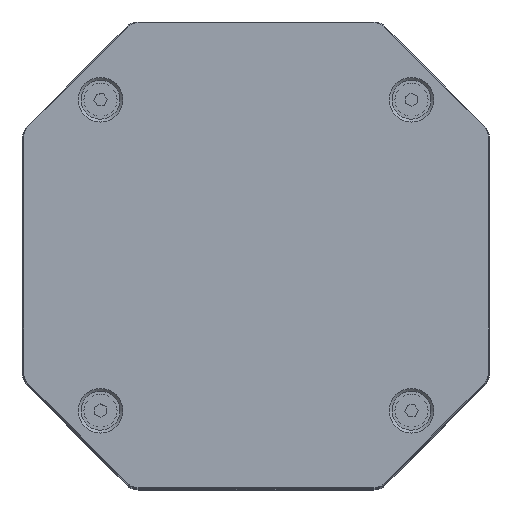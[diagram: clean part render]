
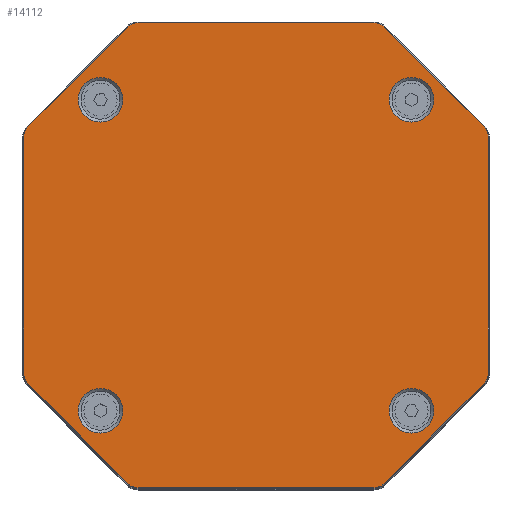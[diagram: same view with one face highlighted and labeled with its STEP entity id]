
A CAD part, top view. The second image highlights one B-rep face of the part: STEP entity #14112.
In plain terms, the highlighted planar face has unit normal (0, 0, 1) as drawn and (0, 1, 0) by its records, which use the part's own axes.
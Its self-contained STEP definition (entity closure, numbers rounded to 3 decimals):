
#860=FACE_BOUND('',#2431,.T.);
#861=FACE_BOUND('',#2432,.T.);
#862=FACE_BOUND('',#2433,.T.);
#863=FACE_BOUND('',#2434,.T.);
#1585=FACE_OUTER_BOUND('',#2430,.T.);
#2430=EDGE_LOOP('',(#12964,#12965,#12966,#12967,#12968,#12969,#12970,#12971,
#12972,#12973,#12974,#12975,#12976,#12977,#12978,#12979));
#2431=EDGE_LOOP('',(#12980));
#2432=EDGE_LOOP('',(#12981));
#2433=EDGE_LOOP('',(#12982));
#2434=EDGE_LOOP('',(#12983));
#3582=LINE('',#25571,#4769);
#3587=LINE('',#25584,#4774);
#3590=LINE('',#25595,#4777);
#3595=LINE('',#25608,#4782);
#3598=LINE('',#25618,#4785);
#3602=LINE('',#25627,#4789);
#3605=LINE('',#25635,#4792);
#3608=LINE('',#25643,#4795);
#4769=VECTOR('',#20099,10.);
#4774=VECTOR('',#20112,10.);
#4777=VECTOR('',#20123,10.);
#4782=VECTOR('',#20136,10.);
#4785=VECTOR('',#20147,10.);
#4789=VECTOR('',#20157,10.);
#4792=VECTOR('',#20166,10.);
#4795=VECTOR('',#20175,10.);
#5605=CIRCLE('',#15910,3.8);
#5607=CIRCLE('',#15914,3.8);
#5609=CIRCLE('',#15918,3.8);
#5611=CIRCLE('',#15922,3.8);
#5612=CIRCLE('',#15925,3.8);
#5613=CIRCLE('',#15928,3.8);
#5614=CIRCLE('',#15931,3.8);
#5615=CIRCLE('',#15934,3.8);
#5616=CIRCLE('',#15943,5.75);
#5617=CIRCLE('',#15944,5.75);
#5618=CIRCLE('',#15945,5.75);
#5619=CIRCLE('',#15946,5.75);
#6906=VERTEX_POINT('',#25568);
#6907=VERTEX_POINT('',#25570);
#6909=VERTEX_POINT('',#25576);
#6911=VERTEX_POINT('',#25582);
#6913=VERTEX_POINT('',#25588);
#6915=VERTEX_POINT('',#25593);
#6917=VERTEX_POINT('',#25600);
#6919=VERTEX_POINT('',#25606);
#6921=VERTEX_POINT('',#25612);
#6922=VERTEX_POINT('',#25616);
#6923=VERTEX_POINT('',#25621);
#6924=VERTEX_POINT('',#25625);
#6925=VERTEX_POINT('',#25629);
#6926=VERTEX_POINT('',#25633);
#6927=VERTEX_POINT('',#25637);
#6928=VERTEX_POINT('',#25641);
#6929=VERTEX_POINT('',#25661);
#6930=VERTEX_POINT('',#25663);
#6931=VERTEX_POINT('',#25665);
#6932=VERTEX_POINT('',#25667);
#8906=EDGE_CURVE('',#6906,#6907,#3582,.T.);
#8910=EDGE_CURVE('',#6909,#6906,#5605,.T.);
#8913=EDGE_CURVE('',#6911,#6909,#3587,.T.);
#8916=EDGE_CURVE('',#6913,#6911,#5607,.T.);
#8918=EDGE_CURVE('',#6915,#6913,#3590,.T.);
#8922=EDGE_CURVE('',#6917,#6915,#5609,.T.);
#8925=EDGE_CURVE('',#6919,#6917,#3595,.T.);
#8928=EDGE_CURVE('',#6921,#6919,#5611,.T.);
#8930=EDGE_CURVE('',#6922,#6921,#3598,.T.);
#8933=EDGE_CURVE('',#6923,#6922,#5612,.T.);
#8935=EDGE_CURVE('',#6924,#6923,#3602,.T.);
#8937=EDGE_CURVE('',#6925,#6924,#5613,.T.);
#8939=EDGE_CURVE('',#6926,#6925,#3605,.T.);
#8941=EDGE_CURVE('',#6927,#6926,#5614,.T.);
#8943=EDGE_CURVE('',#6928,#6927,#3608,.T.);
#8944=EDGE_CURVE('',#6907,#6928,#5615,.T.);
#8952=EDGE_CURVE('',#6929,#6929,#5616,.T.);
#8953=EDGE_CURVE('',#6930,#6930,#5617,.T.);
#8954=EDGE_CURVE('',#6931,#6931,#5618,.T.);
#8955=EDGE_CURVE('',#6932,#6932,#5619,.T.);
#12964=ORIENTED_EDGE('',*,*,#8906,.F.);
#12965=ORIENTED_EDGE('',*,*,#8910,.F.);
#12966=ORIENTED_EDGE('',*,*,#8913,.F.);
#12967=ORIENTED_EDGE('',*,*,#8916,.F.);
#12968=ORIENTED_EDGE('',*,*,#8918,.F.);
#12969=ORIENTED_EDGE('',*,*,#8922,.F.);
#12970=ORIENTED_EDGE('',*,*,#8925,.F.);
#12971=ORIENTED_EDGE('',*,*,#8928,.F.);
#12972=ORIENTED_EDGE('',*,*,#8930,.F.);
#12973=ORIENTED_EDGE('',*,*,#8933,.F.);
#12974=ORIENTED_EDGE('',*,*,#8935,.F.);
#12975=ORIENTED_EDGE('',*,*,#8937,.F.);
#12976=ORIENTED_EDGE('',*,*,#8939,.F.);
#12977=ORIENTED_EDGE('',*,*,#8941,.F.);
#12978=ORIENTED_EDGE('',*,*,#8943,.F.);
#12979=ORIENTED_EDGE('',*,*,#8944,.F.);
#12980=ORIENTED_EDGE('',*,*,#8952,.T.);
#12981=ORIENTED_EDGE('',*,*,#8953,.T.);
#12982=ORIENTED_EDGE('',*,*,#8954,.T.);
#12983=ORIENTED_EDGE('',*,*,#8955,.T.);
#13381=PLANE('',#15942);
#14112=ADVANCED_FACE('',(#1585,#860,#861,#862,#863),#13381,.T.);
#15910=AXIS2_PLACEMENT_3D('',#25578,#20106,#20107);
#15914=AXIS2_PLACEMENT_3D('',#25590,#20118,#20119);
#15918=AXIS2_PLACEMENT_3D('',#25602,#20130,#20131);
#15922=AXIS2_PLACEMENT_3D('',#25614,#20142,#20143);
#15925=AXIS2_PLACEMENT_3D('',#25623,#20152,#20153);
#15928=AXIS2_PLACEMENT_3D('',#25631,#20161,#20162);
#15931=AXIS2_PLACEMENT_3D('',#25639,#20170,#20171);
#15934=AXIS2_PLACEMENT_3D('',#25645,#20178,#20179);
#15942=AXIS2_PLACEMENT_3D('',#25660,#20201,#20202);
#15943=AXIS2_PLACEMENT_3D('',#25662,#20203,#20204);
#15944=AXIS2_PLACEMENT_3D('',#25664,#20205,#20206);
#15945=AXIS2_PLACEMENT_3D('',#25666,#20207,#20208);
#15946=AXIS2_PLACEMENT_3D('',#25668,#20209,#20210);
#20099=DIRECTION('',(0.,0.,-1.));
#20106=DIRECTION('center_axis',(0.,-1.,0.));
#20107=DIRECTION('ref_axis',(-0.924,0.,0.383));
#20112=DIRECTION('',(-0.707,0.,-0.707));
#20118=DIRECTION('center_axis',(0.,-1.,0.));
#20119=DIRECTION('ref_axis',(-0.383,0.,0.924));
#20123=DIRECTION('',(-1.,0.,0.));
#20130=DIRECTION('center_axis',(0.,-1.,0.));
#20131=DIRECTION('ref_axis',(0.383,0.,0.924));
#20136=DIRECTION('',(-0.707,0.,0.707));
#20142=DIRECTION('center_axis',(0.,-1.,0.));
#20143=DIRECTION('ref_axis',(0.924,0.,0.383));
#20147=DIRECTION('',(0.,0.,1.));
#20152=DIRECTION('center_axis',(0.,-1.,0.));
#20153=DIRECTION('ref_axis',(0.924,0.,-0.383));
#20157=DIRECTION('',(0.707,0.,0.707));
#20161=DIRECTION('center_axis',(0.,-1.,0.));
#20162=DIRECTION('ref_axis',(0.383,0.,-0.924));
#20166=DIRECTION('',(1.,0.,0.));
#20170=DIRECTION('center_axis',(0.,-1.,0.));
#20171=DIRECTION('ref_axis',(-0.383,0.,-0.924));
#20175=DIRECTION('',(0.707,0.,-0.707));
#20178=DIRECTION('center_axis',(0.,-1.,0.));
#20179=DIRECTION('ref_axis',(-0.924,0.,-0.383));
#20201=DIRECTION('center_axis',(0.,1.,0.));
#20202=DIRECTION('ref_axis',(0.,0.,1.));
#20203=DIRECTION('center_axis',(0.,-1.,0.));
#20204=DIRECTION('ref_axis',(1.,0.,0.));
#20205=DIRECTION('center_axis',(0.,-1.,0.));
#20206=DIRECTION('ref_axis',(1.,0.,0.));
#20207=DIRECTION('center_axis',(0.,-1.,0.));
#20208=DIRECTION('ref_axis',(1.,0.,0.));
#20209=DIRECTION('center_axis',(0.,-1.,0.));
#20210=DIRECTION('ref_axis',(1.,0.,0.));
#25568=CARTESIAN_POINT('',(-59.8,10.,30.343));
#25570=CARTESIAN_POINT('',(-59.8,10.,-30.343));
#25571=CARTESIAN_POINT('',(-59.8,10.,-30.));
#25576=CARTESIAN_POINT('',(-58.687,10.,33.03));
#25578=CARTESIAN_POINT('Origin',(-56.,10.,30.343));
#25582=CARTESIAN_POINT('',(-33.03,10.,58.687));
#25584=CARTESIAN_POINT('',(-45.859,10.,45.859));
#25588=CARTESIAN_POINT('',(-30.343,10.,59.8));
#25590=CARTESIAN_POINT('Origin',(-30.343,10.,56.));
#25593=CARTESIAN_POINT('',(30.343,10.,59.8));
#25595=CARTESIAN_POINT('',(-30.,10.,59.8));
#25600=CARTESIAN_POINT('',(33.03,10.,58.687));
#25602=CARTESIAN_POINT('Origin',(30.343,10.,56.));
#25606=CARTESIAN_POINT('',(58.687,10.,33.03));
#25608=CARTESIAN_POINT('',(45.859,10.,45.859));
#25612=CARTESIAN_POINT('',(59.8,10.,30.343));
#25614=CARTESIAN_POINT('Origin',(56.,10.,30.343));
#25616=CARTESIAN_POINT('',(59.8,10.,-30.343));
#25618=CARTESIAN_POINT('',(59.8,10.,30.));
#25621=CARTESIAN_POINT('',(58.687,10.,-33.03));
#25623=CARTESIAN_POINT('Origin',(56.,10.,-30.343));
#25625=CARTESIAN_POINT('',(33.03,10.,-58.687));
#25627=CARTESIAN_POINT('',(45.859,10.,-45.859));
#25629=CARTESIAN_POINT('',(30.343,10.,-59.8));
#25631=CARTESIAN_POINT('Origin',(30.343,10.,-56.));
#25633=CARTESIAN_POINT('',(-30.343,10.,-59.8));
#25635=CARTESIAN_POINT('',(30.,10.,-59.8));
#25637=CARTESIAN_POINT('',(-33.03,10.,-58.687));
#25639=CARTESIAN_POINT('Origin',(-30.343,10.,-56.));
#25641=CARTESIAN_POINT('',(-58.687,10.,-33.03));
#25643=CARTESIAN_POINT('',(-45.859,10.,-45.859));
#25645=CARTESIAN_POINT('Origin',(-56.,10.,-30.343));
#25660=CARTESIAN_POINT('Origin',(0.,10.,0.));
#25661=CARTESIAN_POINT('',(34.25,10.,-40.));
#25662=CARTESIAN_POINT('Origin',(40.,10.,-40.));
#25663=CARTESIAN_POINT('',(-45.75,10.,40.));
#25664=CARTESIAN_POINT('Origin',(-40.,10.,40.));
#25665=CARTESIAN_POINT('',(-45.75,10.,-40.));
#25666=CARTESIAN_POINT('Origin',(-40.,10.,-40.));
#25667=CARTESIAN_POINT('',(34.25,10.,40.));
#25668=CARTESIAN_POINT('Origin',(40.,10.,40.));
